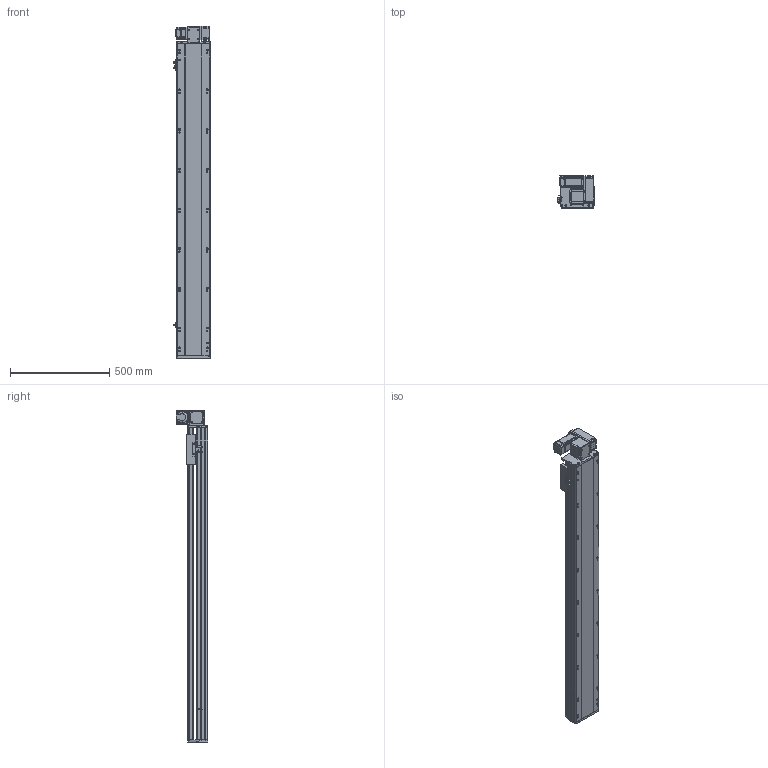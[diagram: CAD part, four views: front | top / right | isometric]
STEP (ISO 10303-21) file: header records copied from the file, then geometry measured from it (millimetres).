
FILE_DESCRIPTION (( 'STEP AP214' ), '1' );
FILE_NAME ('RTB17S-XX-1300-RW-M40-C4.STEP', '2025-12-11T09:02:39', ( '' ), ( '' ), 'SwSTEP 2.0', 'SolidWorks 2018', '' );
FILE_SCHEMA (( 'AUTOMOTIVE_DESIGN' ));
Length unit declared in the file: millimetre
Products named in the file (14): RTB14-L-018P^RTB17S-RW-々湍釱蚾饜-400W_RTB17S-XX-XX-RW-M40-C4; RTB17S-L-001耜醱啣^RTB17S-XX-XX-RW-M40-C4; RTB17S-L-007奻裔^RTB17S-XX-XX-RW-M40-C4; RTB14-L-005P--轴承塑胶压盖^RTB17S-RW-皮带座装配-400W_RTB17S-XX-XX-RW-M40-C4; 400W侜督萇儂^RTB17S-XX-XX-RW-M40-C4; RTH13-BL-012覜茼え俋离^RTB17S-XX-XX-RW-M40-C4; RTB17S-L-004佪裝蹟譫蟀諉釱^RTB17S-XX-XX-RW-M40-C4; OMRON EE-SX672 传感器^RTB17S-XX-XX-RW-M40-C4; RTB14-L-017P^RTB17S-RW-々湍釱蚾饜-400W_RTB17S-XX-XX-RW-M40-C4; RTB17S-RW-々湍釱蚾饜-400W^RTB17S-XX-XX-RW-M40-C4; RTB14-L-008-M20--萇儂啣^RTB17S-RW-々湍釱蚾饜-400W_RTB17S-XX-XX-RW-M40-C4; RTB17S-XX-1300-RW-M40-C4; RMP17S-L-014-T20--々湍釱^RTB17S-RW-々湍釱蚾饜-400W_RTB17S-XX-XX-RW-M40-C4; RTB17-R-011菁釱^RTB17S-XX-XX-RW-M40-C4
Assembly tree (16 placements, depth 3):
  RTB17S-XX-1300-RW-M40-C4
    RTB17-R-011菁釱^RTB17S-XX-XX-RW-M40-C4
    RTB17S-L-007奻裔^RTB17S-XX-XX-RW-M40-C4
    OMRON EE-SX672 传感器^RTB17S-XX-XX-RW-M40-C4  x3
    RTB17S-L-001耜醱啣^RTB17S-XX-XX-RW-M40-C4
    400W侜督萇儂^RTB17S-XX-XX-RW-M40-C4
    RTB17S-L-004佪裝蹟譫蟀諉釱^RTB17S-XX-XX-RW-M40-C4
    RTH13-BL-012覜茼え俋离^RTB17S-XX-XX-RW-M40-C4
    RTB17S-RW-々湍釱蚾饜-400W^RTB17S-XX-XX-RW-M40-C4
      RMP17S-L-014-T20--々湍釱^RTB17S-RW-々湍釱蚾饜-400W_RTB17S-XX-XX-RW-M40-C4
      RTB14-L-005P--轴承塑胶压盖^RTB17S-RW-皮带座装配-400W_RTB17S-XX-XX-RW-M40-C4
      RTB14-L-008-M20--萇儂啣^RTB17S-RW-々湍釱蚾饜-400W_RTB17S-XX-XX-RW-M40-C4
      RTB14-L-017P^RTB17S-RW-々湍釱蚾饜-400W_RTB17S-XX-XX-RW-M40-C4  x2
      RTB14-L-018P^RTB17S-RW-々湍釱蚾饜-400W_RTB17S-XX-XX-RW-M40-C4
Bounding box: 183.5 x 160.5 x 1672.5 mm (x, y, z)
Volume: 14818216.7 mm3; surface area: 1765751.6 mm2
Topology: 15 solids, 15 shells, 2237 faces, 6195 edges, 4041 vertices
Faces by surface type: plane 1072, cylinder 717, bspline 301, cone 139, torus 8
Entity records: 64169 total; most frequent: CARTESIAN_POINT 18000, ORIENTED_EDGE 9234, DIRECTION 8576, EDGE_CURVE 4617, VERTEX_POINT 3029, AXIS2_PLACEMENT_3D 2959, VECTOR 2658, LINE 2658
